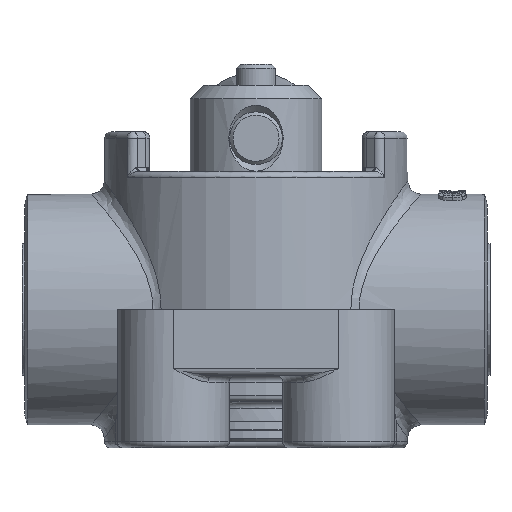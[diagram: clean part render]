
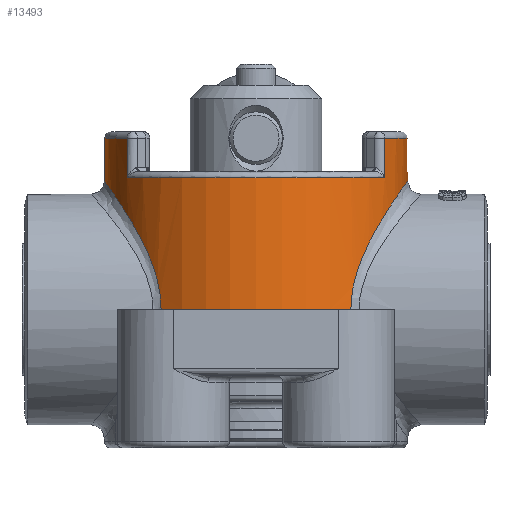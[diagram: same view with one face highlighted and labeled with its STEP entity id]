
A CAD part, front view. The second image highlights one B-rep face of the part: STEP entity #13493.
In plain terms, the highlighted cylindrical face has radius 23 mm (diameter 46 mm), a full revolution.
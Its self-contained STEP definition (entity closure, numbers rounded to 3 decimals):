
#11949=CARTESIAN_POINT('',(19.534,12.142,41.));
#11950=VERTEX_POINT('',#11949);
#12229=CARTESIAN_POINT('',(-19.534,12.142,41.));
#12230=VERTEX_POINT('',#12229);
#12231=CARTESIAN_POINT('',(0.0,0.0,41.));
#12232=DIRECTION('',(0.0,0.0,1.0));
#12233=DIRECTION('',(0.0,1.0,0.0));
#12234=AXIS2_PLACEMENT_3D('',#12231,#12232,#12233);
#12235=CIRCLE('',#12234,23.);
#12236=EDGE_CURVE('',#11950,#12230,#12235,.T.);
#12512=CARTESIAN_POINT('',(19.534,-12.142,41.));
#12513=VERTEX_POINT('',#12512);
#12763=CARTESIAN_POINT('',(19.534,-12.142,47.));
#12764=VERTEX_POINT('',#12763);
#12765=CARTESIAN_POINT('',(19.534,-12.142,41.0));
#12766=DIRECTION('',(0.0,0.0,1.0));
#12767=VECTOR('',#12766,6.);
#12768=LINE('',#12765,#12767);
#12769=EDGE_CURVE('',#12513,#12764,#12768,.T.);
#12797=CARTESIAN_POINT('',(-19.534,-12.142,41.));
#12798=VERTEX_POINT('',#12797);
#12810=CARTESIAN_POINT('',(0.0,0.0,41.));
#12811=DIRECTION('',(0.0,0.0,1.0));
#12812=DIRECTION('',(0.0,-1.0,0.0));
#12813=AXIS2_PLACEMENT_3D('',#12810,#12811,#12812);
#12814=CIRCLE('',#12813,23.);
#12815=EDGE_CURVE('',#12798,#12513,#12814,.T.);
#13059=CARTESIAN_POINT('',(-19.534,-12.142,47.));
#13060=VERTEX_POINT('',#13059);
#13068=CARTESIAN_POINT('',(-19.534,-12.142,41.0));
#13069=DIRECTION('',(0.0,0.0,1.0));
#13070=VECTOR('',#13069,6.);
#13071=LINE('',#13068,#13070);
#13072=EDGE_CURVE('',#12798,#13060,#13071,.T.);
#13191=CARTESIAN_POINT('',(14.393,-17.94,21.));
#13192=VERTEX_POINT('',#13191);
#13205=CARTESIAN_POINT('',(16.263,16.263,29.231));
#13206=VERTEX_POINT('',#13205);
#13214=CARTESIAN_POINT('',(20.055,11.26,36.181));
#13215=VERTEX_POINT('',#13214);
#13216=CARTESIAN_POINT('',(16.263,16.263,29.231));
#13217=CARTESIAN_POINT('',(17.216,15.311,31.454));
#13218=CARTESIAN_POINT('',(18.326,14.026,33.399));
#13219=CARTESIAN_POINT('',(19.358,12.418,35.071));
#13220=CARTESIAN_POINT('',(19.595,12.049,35.456));
#13221=CARTESIAN_POINT('',(19.829,11.662,35.826));
#13222=CARTESIAN_POINT('',(20.055,11.259,36.179));
#13223=B_SPLINE_CURVE_WITH_KNOTS('',3,(#13216,#13217,#13218,#13219,#13220,#13221,#13222),.UNSPECIFIED.,.F.,.U.,(4,3,4),(24.762,25.557,25.74),.UNSPECIFIED.);
#13224=EDGE_CURVE('',#13206,#13215,#13223,.T.);
#13226=CARTESIAN_POINT('',(20.055,11.259,36.179));
#13227=CARTESIAN_POINT('',(20.813,9.909,37.362));
#13228=CARTESIAN_POINT('',(22.382,6.388,39.656));
#13229=CARTESIAN_POINT('',(23.414,-0.391,41.063));
#13230=CARTESIAN_POINT('',(22.056,-7.637,39.205));
#13231=CARTESIAN_POINT('',(19.122,-13.187,34.842));
#13232=CARTESIAN_POINT('',(16.336,-16.279,29.829));
#13233=CARTESIAN_POINT('',(14.718,-17.684,24.985));
#13234=CARTESIAN_POINT('',(14.393,-17.94,22.335));
#13235=CARTESIAN_POINT('',(14.393,-17.94,21.));
#13236=B_SPLINE_CURVE_WITH_KNOTS('',3,(#13226,#13227,#13228,#13229,#13230,#13231,#13232,#13233,#13234,#13235),.UNSPECIFIED.,.F.,.U.,(4,1,1,1,1,1,1,4),(12.87,13.482,14.276,15.071,15.865,16.66,17.057,17.455),.UNSPECIFIED.);
#13237=EDGE_CURVE('',#13215,#13192,#13236,.T.);
#13356=CARTESIAN_POINT('',(-14.393,-17.94,21.));
#13357=VERTEX_POINT('',#13356);
#13358=CARTESIAN_POINT('',(0.0,0.0,21.0));
#13359=DIRECTION('',(0.0,0.0,1.0));
#13360=DIRECTION('',(-1.0,0.0,0.0));
#13361=AXIS2_PLACEMENT_3D('',#13358,#13359,#13360);
#13362=CIRCLE('',#13361,23.);
#13363=EDGE_CURVE('',#13357,#13192,#13362,.T.);
#13398=CARTESIAN_POINT('',(0.0,0.0,0.0));
#13399=DIRECTION('',(0.0,0.0,1.0));
#13400=DIRECTION('',(-1.0,0.0,0.0));
#13401=AXIS2_PLACEMENT_3D('',#13398,#13399,#13400);
#13402=CYLINDRICAL_SURFACE('',#13401,23.);
#13403=ORIENTED_EDGE('',*,*,#13072,.T.);
#13404=CARTESIAN_POINT('',(-19.534,12.142,47.));
#13405=VERTEX_POINT('',#13404);
#13406=CARTESIAN_POINT('',(0.0,0.0,47.));
#13407=DIRECTION('',(0.0,0.0,1.0));
#13408=DIRECTION('',(-1.0,0.0,0.0));
#13409=AXIS2_PLACEMENT_3D('',#13406,#13407,#13408);
#13410=CIRCLE('',#13409,23.);
#13411=EDGE_CURVE('',#13405,#13060,#13410,.T.);
#13412=ORIENTED_EDGE('',*,*,#13411,.F.);
#13413=CARTESIAN_POINT('',(-19.534,12.142,41.0));
#13414=DIRECTION('',(0.0,0.0,1.0));
#13415=VECTOR('',#13414,6.);
#13416=LINE('',#13413,#13415);
#13417=EDGE_CURVE('',#12230,#13405,#13416,.T.);
#13418=ORIENTED_EDGE('',*,*,#13417,.F.);
#13419=ORIENTED_EDGE('',*,*,#12236,.F.);
#13420=CARTESIAN_POINT('',(19.534,12.142,47.));
#13421=VERTEX_POINT('',#13420);
#13422=CARTESIAN_POINT('',(19.534,12.142,41.0));
#13423=DIRECTION('',(0.0,0.0,1.0));
#13424=VECTOR('',#13423,6.);
#13425=LINE('',#13422,#13424);
#13426=EDGE_CURVE('',#11950,#13421,#13425,.T.);
#13427=ORIENTED_EDGE('',*,*,#13426,.T.);
#13428=CARTESIAN_POINT('',(0.0,0.0,47.));
#13429=DIRECTION('',(0.0,0.0,1.0));
#13430=DIRECTION('',(1.0,0.0,0.0));
#13431=AXIS2_PLACEMENT_3D('',#13428,#13429,#13430);
#13432=CIRCLE('',#13431,23.);
#13433=EDGE_CURVE('',#12764,#13421,#13432,.T.);
#13434=ORIENTED_EDGE('',*,*,#13433,.F.);
#13435=ORIENTED_EDGE('',*,*,#12769,.F.);
#13436=ORIENTED_EDGE('',*,*,#12815,.F.);
#13437=EDGE_LOOP('',(#13403,#13412,#13418,#13419,#13427,#13434,#13435,#13436));
#13438=FACE_OUTER_BOUND('',#13437,.T.);
#13439=ORIENTED_EDGE('',*,*,#13237,.F.);
#13440=ORIENTED_EDGE('',*,*,#13224,.F.);
#13441=CARTESIAN_POINT('',(-10.554,20.436,36.769));
#13442=VERTEX_POINT('',#13441);
#13443=CARTESIAN_POINT('',(-10.557,20.434,36.767));
#13444=CARTESIAN_POINT('',(-9.969,20.739,37.233));
#13445=CARTESIAN_POINT('',(-7.733,21.778,38.787));
#13446=CARTESIAN_POINT('',(-3.18,23.066,40.592));
#13447=CARTESIAN_POINT('',(3.159,23.065,40.592));
#13448=CARTESIAN_POINT('',(8.897,21.453,38.331));
#13449=CARTESIAN_POINT('',(13.372,18.906,34.459));
#13450=CARTESIAN_POINT('',(15.463,17.064,31.099));
#13451=CARTESIAN_POINT('',(16.263,16.263,29.231));
#13452=B_SPLINE_CURVE_WITH_KNOTS('',3,(#13443,#13444,#13445,#13446,#13447,#13448,#13449,#13450,#13451),.UNSPECIFIED.,.F.,.U.,(4,1,1,1,1,1,4),(-25.724,-25.468,-24.799,-24.131,-23.462,-22.794,-22.125),.UNSPECIFIED.);
#13453=EDGE_CURVE('',#13442,#13206,#13452,.T.);
#13454=ORIENTED_EDGE('',*,*,#13453,.F.);
#13455=CARTESIAN_POINT('',(-16.263,16.263,29.231));
#13456=VERTEX_POINT('',#13455);
#13457=CARTESIAN_POINT('',(-16.263,16.263,29.231));
#13458=CARTESIAN_POINT('',(-15.458,17.069,31.111));
#13459=CARTESIAN_POINT('',(-13.765,18.558,33.822));
#13460=CARTESIAN_POINT('',(-11.5,19.947,36.021));
#13461=CARTESIAN_POINT('',(-10.555,20.436,36.769));
#13462=B_SPLINE_CURVE_WITH_KNOTS('',3,(#13457,#13458,#13459,#13460,#13461),.UNSPECIFIED.,.F.,.U.,(4,1,4),(-26.805,-26.136,-25.724),.UNSPECIFIED.);
#13463=EDGE_CURVE('',#13456,#13442,#13462,.T.);
#13464=ORIENTED_EDGE('',*,*,#13463,.F.);
#13465=CARTESIAN_POINT('',(-21.092,9.171,37.759));
#13466=VERTEX_POINT('',#13465);
#13467=CARTESIAN_POINT('',(-21.094,9.172,37.759));
#13468=CARTESIAN_POINT('',(-20.576,10.362,36.989));
#13469=CARTESIAN_POINT('',(-19.981,11.449,36.08));
#13470=CARTESIAN_POINT('',(-19.356,12.422,35.067));
#13471=CARTESIAN_POINT('',(-18.326,14.023,33.398));
#13472=CARTESIAN_POINT('',(-17.213,15.314,31.447));
#13473=CARTESIAN_POINT('',(-16.263,16.263,29.231));
#13474=B_SPLINE_CURVE_WITH_KNOTS('',3,(#13467,#13468,#13469,#13470,#13471,#13472,#13473),.UNSPECIFIED.,.F.,.U.,(4,3,4),(-25.727,-25.245,-24.451),.UNSPECIFIED.);
#13475=EDGE_CURVE('',#13466,#13456,#13474,.T.);
#13476=ORIENTED_EDGE('',*,*,#13475,.F.);
#13477=CARTESIAN_POINT('',(-14.393,-17.94,21.));
#13478=CARTESIAN_POINT('',(-14.393,-17.94,22.325));
#13479=CARTESIAN_POINT('',(-14.715,-17.687,24.974));
#13480=CARTESIAN_POINT('',(-16.331,-16.283,29.815));
#13481=CARTESIAN_POINT('',(-19.111,-13.204,34.826));
#13482=CARTESIAN_POINT('',(-22.052,-7.649,39.199));
#13483=CARTESIAN_POINT('',(-23.42,-0.391,41.072));
#13484=CARTESIAN_POINT('',(-22.512,5.5,39.833));
#13485=CARTESIAN_POINT('',(-21.431,8.399,38.263));
#13486=CARTESIAN_POINT('',(-21.094,9.173,37.761));
#13487=B_SPLINE_CURVE_WITH_KNOTS('',3,(#13477,#13478,#13479,#13480,#13481,#13482,#13483,#13484,#13485,#13486),.UNSPECIFIED.,.F.,.U.,(4,1,1,1,1,1,1,4),(-17.146,-16.749,-16.352,-15.558,-14.764,-13.97,-13.176,-12.863),.UNSPECIFIED.);
#13488=EDGE_CURVE('',#13357,#13466,#13487,.T.);
#13489=ORIENTED_EDGE('',*,*,#13488,.F.);
#13490=ORIENTED_EDGE('',*,*,#13363,.T.);
#13491=EDGE_LOOP('',(#13439,#13440,#13454,#13464,#13476,#13489,#13490));
#13492=FACE_BOUND('',#13491,.T.);
#13493=ADVANCED_FACE('',(#13438,#13492),#13402,.T.);
